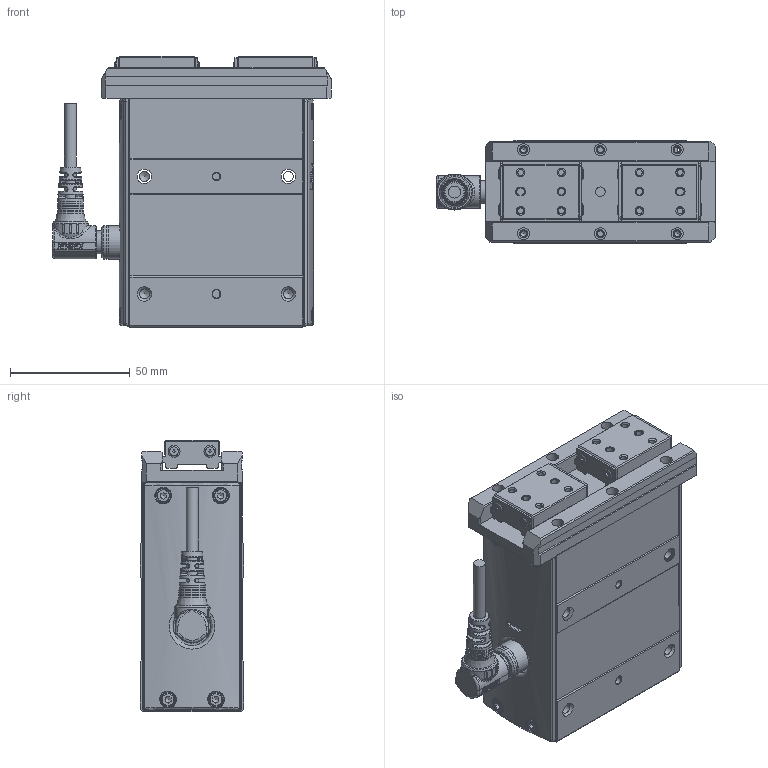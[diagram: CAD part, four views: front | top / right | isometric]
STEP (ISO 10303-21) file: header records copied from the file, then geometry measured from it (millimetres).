
FILE_DESCRIPTION(/* description */ (''),/* implementation_level */ '2;1');
FILE_NAME(/* name */ 'D:\2025.02.25 帶電匯整給泊舟\CHZ2-S22-WM.stp',/* time_stamp */ '2025-02-26T11:02:46+08:00',/* author */ ('T10033'),/* organization */ (''),/* preprocessor_version */ 'ST-DEVELOPER v18.1',/* originating_system */ 'Autodesk Inventor 2020',/* authorisation */ '');
FILE_SCHEMA (('CONFIG_CONTROL_DESIGN'));
Products named in the file (7): CHZ2-N22_(線直出+帶夾具); 12008-000057-02_蓋板修改; 慶陞金屬頭; 6WT3E5DF_Shrinkwrap_1; 63T6E3_Shrinkwrap_1; 43Y6E3TR_Shrinkwrap_1; M12-14PIN 線端90度接頭-05中繼線
Assembly tree (6 placements, depth 2):
  CHZ2-N22_(線直出+帶夾具)
    12008-000057-02_蓋板修改
    慶陞金屬頭
    6WT3E5DF_Shrinkwrap_1
    63T6E3_Shrinkwrap_1
    43Y6E3TR_Shrinkwrap_1
    M12-14PIN 線端90度接頭-05中繼線
Bounding box: 116.3 x 43 x 113 mm (x, y, z)
Volume: 360016 mm3; surface area: 81240.4 mm2
Topology: 44 solids, 49 shells, 2539 faces, 6850 edges, 4532 vertices
Faces by surface type: plane 1288, cylinder 568, cone 395, bspline 155, torus 113, sphere 20
Full cylindrical faces by diameter (mm): 0.6 x14, 0.65 x14, 1 x14, 2.013 x8, 2.224 x8, 2.459 x22, 2.5 x8, 2.7 x8, 2.8 x3, 3 x18, 3.4 x6, 4 x3, 4.134 x12, 5 x15, 5.5 x12, 6.647 x2, 8 x3, 8.9 x1, 9.5 x2, 9.6 x1, 10.5 x2, 10.9 x1, 11 x2, 11.2 x1, 11.25 x1, 12 x1, 13 x1, 13.8 x1, 14 x2, 14.4 x1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
Entity records: 110358 total; most frequent: CARTESIAN_POINT 42932, DIRECTION 13624, ORIENTED_EDGE 13590, EDGE_CURVE 6813, AXIS2_PLACEMENT_3D 5132, VERTEX_POINT 4531, LINE 3360, VECTOR 3360
